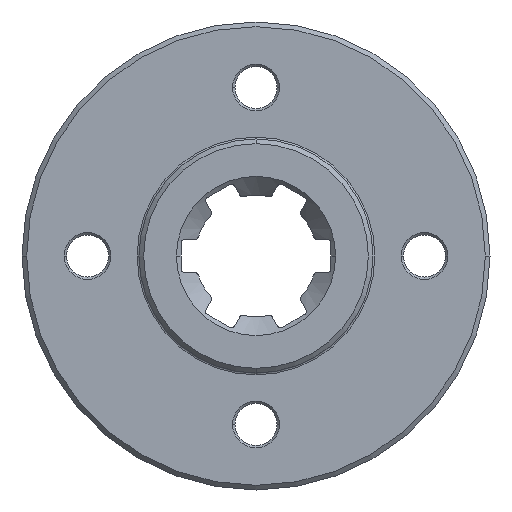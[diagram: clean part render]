
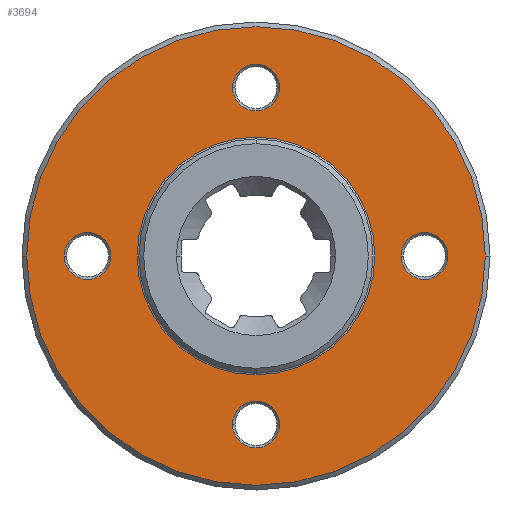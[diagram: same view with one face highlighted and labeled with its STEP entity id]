
A CAD part, left-side view. The second image highlights one B-rep face of the part: STEP entity #3694.
In plain terms, the highlighted planar face has unit normal (-1, 0, 0).
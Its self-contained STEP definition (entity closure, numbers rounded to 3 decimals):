
#1787=CARTESIAN_POINT('',(0.,0.,
0.));
#1788=DIRECTION('',(-1.,0.,0.));
#1789=DIRECTION('',(0.,-1.,0.));
#1790=AXIS2_PLACEMENT_3D('',#1787,#1788,#1789);
#1795=CARTESIAN_POINT('',(0.,0.,0.));
#1796=DIRECTION('',(-1.,0.,0.));
#1797=DIRECTION('',(0.,1.,0.));
#1798=AXIS2_PLACEMENT_3D('',#1795,#1796,#1797);
#1803=CARTESIAN_POINT('',(0.,0.,0.));
#1804=DIRECTION('',(1.,0.,0.));
#1805=DIRECTION('',(0.,0.,1.));
#1806=AXIS2_PLACEMENT_3D('',#1803,#1804,#1805);
#1811=CARTESIAN_POINT('',(0.,0.,0.));
#1812=DIRECTION('',(1.,0.,0.));
#1813=DIRECTION('',(0.,0.,-1.));
#1814=AXIS2_PLACEMENT_3D('',#1811,#1812,#1813);
#1819=CARTESIAN_POINT('',(0.,0.,-18.));
#1820=DIRECTION('',(1.,0.,0.));
#1821=DIRECTION('',(0.,1.,0.));
#1822=AXIS2_PLACEMENT_3D('',#1819,#1820,#1821);
#1827=CARTESIAN_POINT('',(0.,0.,-18.));
#1828=DIRECTION('',(1.,0.,0.));
#1829=DIRECTION('',(0.,-1.,0.));
#1830=AXIS2_PLACEMENT_3D('',#1827,#1828,#1829);
#1835=CARTESIAN_POINT('',(0.,18.,0.));
#1836=DIRECTION('',(1.,0.,0.));
#1837=DIRECTION('',(0.,1.,0.));
#1838=AXIS2_PLACEMENT_3D('',#1835,#1836,#1837);
#1843=CARTESIAN_POINT('',(0.,18.,0.));
#1844=DIRECTION('',(1.,0.,0.));
#1845=DIRECTION('',(0.,-1.,0.));
#1846=AXIS2_PLACEMENT_3D('',#1843,#1844,#1845);
#1851=CARTESIAN_POINT('',(0.,0.,18.));
#1852=DIRECTION('',(1.,0.,0.));
#1853=DIRECTION('',(0.,1.,0.));
#1854=AXIS2_PLACEMENT_3D('',#1851,#1852,#1853);
#1859=CARTESIAN_POINT('',(0.,0.,18.));
#1860=DIRECTION('',(1.,0.,0.));
#1861=DIRECTION('',(0.,-1.,0.));
#1862=AXIS2_PLACEMENT_3D('',#1859,#1860,#1861);
#1867=CARTESIAN_POINT('',(0.,-18.,0.));
#1868=DIRECTION('',(1.,0.,0.));
#1869=DIRECTION('',(0.,1.,0.));
#1870=AXIS2_PLACEMENT_3D('',#1867,#1868,#1869);
#1875=CARTESIAN_POINT('',(0.,-18.,0.));
#1876=DIRECTION('',(1.,0.,0.));
#1877=DIRECTION('',(0.,-1.,0.));
#1878=AXIS2_PLACEMENT_3D('',#1875,#1876,#1877);
#2321=CARTESIAN_POINT('',(0.,-24.5,0.));
#2322=CARTESIAN_POINT('',(0.,24.5,0.));
#2323=VERTEX_POINT('',#2321);
#2324=VERTEX_POINT('',#2322);
#2357=CARTESIAN_POINT('',(0.,0.,12.7));
#2358=CARTESIAN_POINT('',(0.,0.,-12.7));
#2359=VERTEX_POINT('',#2357);
#2360=VERTEX_POINT('',#2358);
#2369=CARTESIAN_POINT('',(0.,2.5,-18.));
#2370=CARTESIAN_POINT('',(0.,-2.5,-18.));
#2371=VERTEX_POINT('',#2369);
#2372=VERTEX_POINT('',#2370);
#2385=CARTESIAN_POINT('',(0.,20.5,0.));
#2386=CARTESIAN_POINT('',(0.,15.5,0.));
#2387=VERTEX_POINT('',#2385);
#2388=VERTEX_POINT('',#2386);
#2401=CARTESIAN_POINT('',(0.,2.5,18.));
#2402=CARTESIAN_POINT('',(0.,-2.5,18.));
#2403=VERTEX_POINT('',#2401);
#2404=VERTEX_POINT('',#2402);
#2417=CARTESIAN_POINT('',(0.,-15.5,0.));
#2418=CARTESIAN_POINT('',(0.,-20.5,0.));
#2419=VERTEX_POINT('',#2417);
#2420=VERTEX_POINT('',#2418);
#3654=CARTESIAN_POINT('',(0.,0.,0.));
#3655=DIRECTION('',(-1.,0.,0.));
#3656=DIRECTION('',(0.,1.,0.));
#3657=AXIS2_PLACEMENT_3D('',#3654,#3655,#3656);
#3658=PLANE('',#3657);
#3660=ORIENTED_EDGE('',*,*,#3659,.F.);
#3661=ORIENTED_EDGE('',*,*,#3644,.F.);
#3662=EDGE_LOOP('',(#3660,#3661));
#3663=FACE_OUTER_BOUND('',#3662,.F.);
#3665=ORIENTED_EDGE('',*,*,#3664,.F.);
#3667=ORIENTED_EDGE('',*,*,#3666,.F.);
#3668=EDGE_LOOP('',(#3665,#3667));
#3669=FACE_BOUND('',#3668,.F.);
#3671=ORIENTED_EDGE('',*,*,#3670,.F.);
#3673=ORIENTED_EDGE('',*,*,#3672,.F.);
#3674=EDGE_LOOP('',(#3671,#3673));
#3675=FACE_BOUND('',#3674,.F.);
#3677=ORIENTED_EDGE('',*,*,#3676,.F.);
#3679=ORIENTED_EDGE('',*,*,#3678,.F.);
#3680=EDGE_LOOP('',(#3677,#3679));
#3681=FACE_BOUND('',#3680,.F.);
#3683=ORIENTED_EDGE('',*,*,#3682,.F.);
#3685=ORIENTED_EDGE('',*,*,#3684,.F.);
#3686=EDGE_LOOP('',(#3683,#3685));
#3687=FACE_BOUND('',#3686,.F.);
#3689=ORIENTED_EDGE('',*,*,#3688,.F.);
#3691=ORIENTED_EDGE('',*,*,#3690,.F.);
#3692=EDGE_LOOP('',(#3689,#3691));
#3693=FACE_BOUND('',#3692,.F.);
#3694=ADVANCED_FACE('',(#3663,#3669,#3675,#3681,#3687,#3693),#3658,.T.);
#1791=CIRCLE('',#1790,24.5);
#1799=CIRCLE('',#1798,24.5);
#1807=CIRCLE('',#1806,12.7);
#1815=CIRCLE('',#1814,12.7);
#1823=CIRCLE('',#1822,2.5);
#1831=CIRCLE('',#1830,2.5);
#1839=CIRCLE('',#1838,2.5);
#1847=CIRCLE('',#1846,2.5);
#1855=CIRCLE('',#1854,2.5);
#1863=CIRCLE('',#1862,2.5);
#1871=CIRCLE('',#1870,2.5);
#1879=CIRCLE('',#1878,2.5);
#3644=EDGE_CURVE('',#2324,#2323,#1799,.T.);
#3659=EDGE_CURVE('',#2323,#2324,#1791,.T.);
#3664=EDGE_CURVE('',#2359,#2360,#1807,.T.);
#3666=EDGE_CURVE('',#2360,#2359,#1815,.T.);
#3670=EDGE_CURVE('',#2371,#2372,#1823,.T.);
#3672=EDGE_CURVE('',#2372,#2371,#1831,.T.);
#3676=EDGE_CURVE('',#2387,#2388,#1839,.T.);
#3678=EDGE_CURVE('',#2388,#2387,#1847,.T.);
#3682=EDGE_CURVE('',#2403,#2404,#1855,.T.);
#3684=EDGE_CURVE('',#2404,#2403,#1863,.T.);
#3688=EDGE_CURVE('',#2419,#2420,#1871,.T.);
#3690=EDGE_CURVE('',#2420,#2419,#1879,.T.);
